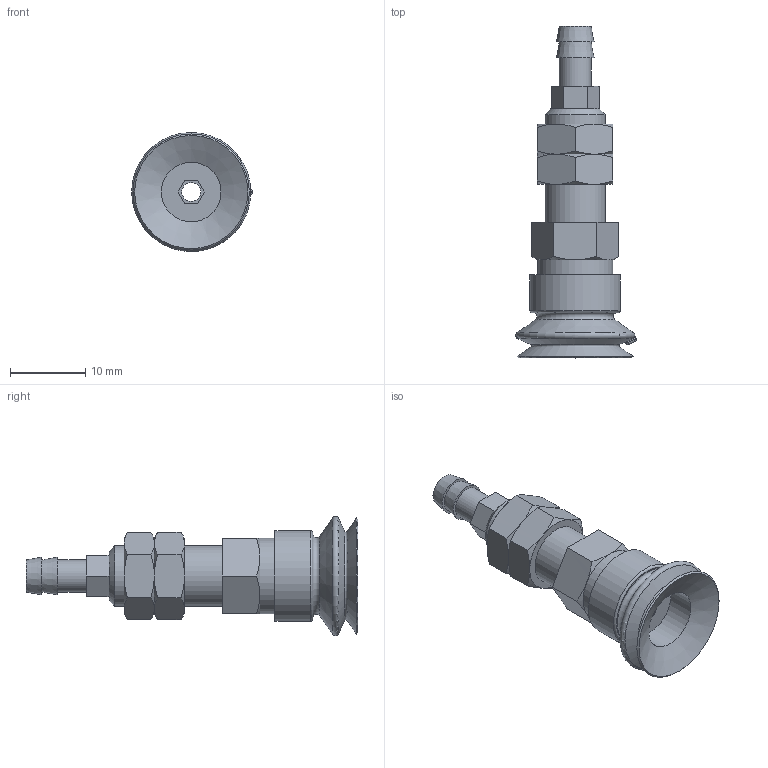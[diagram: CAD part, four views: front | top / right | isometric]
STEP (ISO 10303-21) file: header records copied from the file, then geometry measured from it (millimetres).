
FILE_DESCRIPTION(('STEP AP203'),'1');
FILE_NAME('.stp','2025-04-23T02:29:43',(' '),(' '),'Spatial InterOp 3D',' ',' ');
FILE_SCHEMA(('CONFIG_CONTROL_DESIGN'));
Length unit declared in the file: millimetre
Products named in the file (5): BBPJTK-15-※; NUT-15-PJ_K; Adapter-15-PJ; PJTK-15; BPJG-15-※
Assembly tree (5 placements, depth 2):
  BBPJTK-15-※
    NUT-15-PJ_K  x2
    Adapter-15-PJ
    PJTK-15
    BPJG-15-※
Bounding box: 15.99 x 44 x 15.78 mm (x, y, z)
Volume: 2634.8 mm3; surface area: 3315.3 mm2
Topology: 5 solids, 5 shells, 131 faces, 282 edges, 168 vertices
Faces by surface type: plane 51, cone 48, cylinder 13, torus 9, bspline 6, sphere 4
Full cylindrical faces by diameter (mm): 2.5 x1, 3 x1, 4.134 x1, 4.26 x1, 4.6 x1, 5 x1, 6.647 x2, 7.9 x1, 8 x2, 10 x1, 12 x1
Entity records: 3250 total; most frequent: CARTESIAN_POINT 875, DIRECTION 446, ORIENTED_EDGE 382, AXIS2_PLACEMENT_3D 191, EDGE_CURVE 191, EDGE_LOOP 157, VERTEX_POINT 132, FACE_OUTER_BOUND 127
